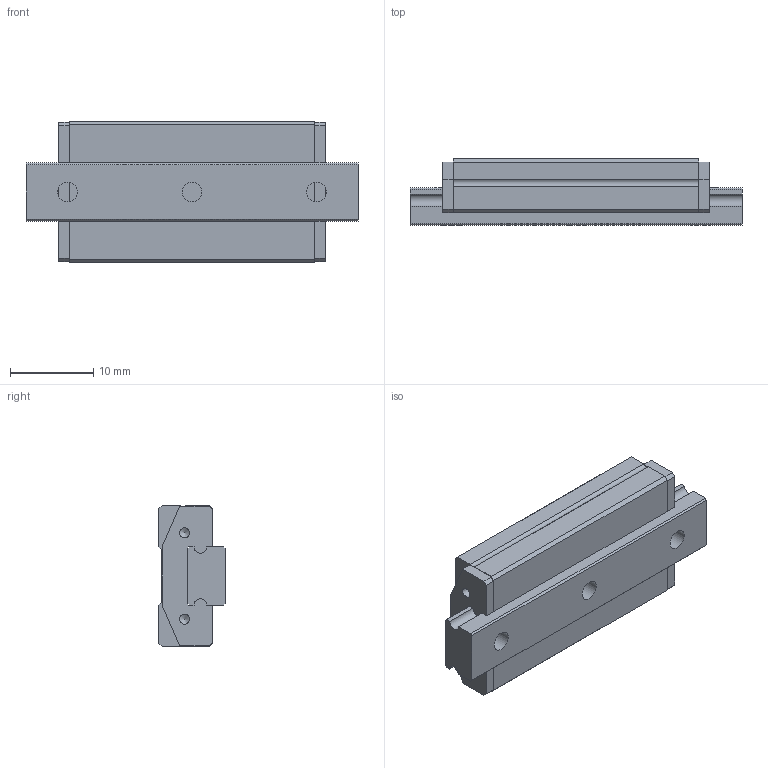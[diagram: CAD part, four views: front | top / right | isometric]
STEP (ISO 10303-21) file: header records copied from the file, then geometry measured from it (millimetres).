
FILE_DESCRIPTION( ( 'STEP AP214' ), '1' );
FILE_NAME( 'p:/temp/worker_28/temp/exporttempdir_184_744_oV5ZF/format_0/Minirail 1 MNNL 7-40-5-5-G1-V0-(1).stp', '2020-03-25T09:43:51', ( 'License CC BY-ND 4.0' ), ( 'CADENAS' ), ' ', 'PARTsolutions', ' ' );
FILE_SCHEMA( ( 'AUTOMOTIVE_DESIGN { 1 0 10303 214 1 1 1 1 }' ) );
Length unit declared in the file: millimetre
Products named in the file (4): Minirail 1 MNNL 7-40-5-5-G1-V0-(1); _Schiene 1 MNL 7-40-5-5-G1-V0-(1); _MNNL 7-G1-V0-(1); _Abstreifer-MNL7
Assembly tree (4 placements, depth 2):
  Minirail 1 MNNL 7-40-5-5-G1-V0-(1)
    _Schiene 1 MNL 7-40-5-5-G1-V0-(1)
    _MNNL 7-G1-V0-(1)
    _Abstreifer-MNL7  x2
Bounding box: 40 x 8 x 17 mm (x, y, z)
Volume: 3742.8 mm3; surface area: 3552 mm2
Topology: 4 solids, 4 shells, 125 faces, 320 edges, 210 vertices
Faces by surface type: plane 78, cylinder 31, cone 16
Full cylindrical faces by diameter (mm): 1.2 x4, 1.567 x4, 2.4 x3, 2.6 x8, 4.2 x3
Entity records: 3556 total; most frequent: CARTESIAN_POINT 464, DIRECTION 464, ORIENTED_EDGE 408, EDGE_CURVE 204, AXIS2_PLACEMENT_3D 158, VERTEX_POINT 158, LINE 148, VECTOR 148
